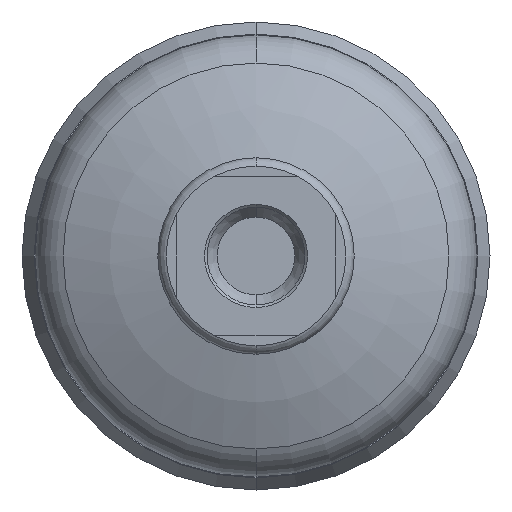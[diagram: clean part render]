
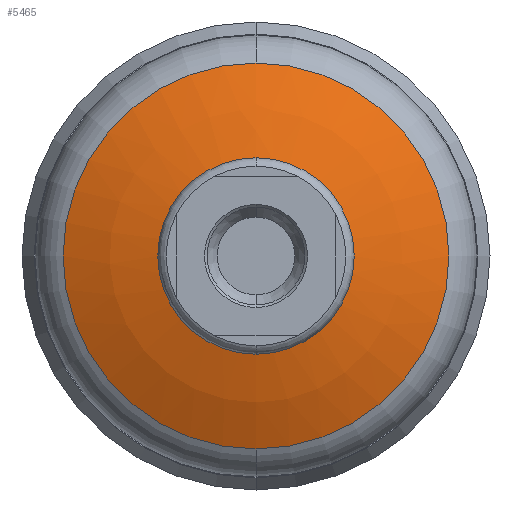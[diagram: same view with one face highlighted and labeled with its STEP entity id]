
A CAD part, front view. The second image highlights one B-rep face of the part: STEP entity #5465.
In plain terms, the highlighted spherical face has radius 258.99 mm.
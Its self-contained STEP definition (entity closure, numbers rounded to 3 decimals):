
#41 = CIRCLE ( 'NONE', #4950, 111.739 ) ;
#147 = CARTESIAN_POINT ( 'NONE',  ( 0., -58.674, 0. ) ) ;
#566 = CARTESIAN_POINT ( 'NONE',  ( 0., -39.651, -111.739 ) ) ;
#1175 = VERTEX_POINT ( 'NONE', #2691 ) ;
#1285 = ORIENTED_EDGE ( 'NONE', *, *, #3680, .T. ) ;
#1355 = DIRECTION ( 'NONE',  ( 0., 1., 0. ) ) ;
#1488 = ORIENTED_EDGE ( 'NONE', *, *, #2219, .F. ) ;
#1760 = ORIENTED_EDGE ( 'NONE', *, *, #2182, .F. ) ;
#1867 = CARTESIAN_POINT ( 'NONE',  ( 0., -58.674, 0. ) ) ;
#2022 = VERTEX_POINT ( 'NONE', #7356 ) ;
#2142 = EDGE_LOOP ( 'NONE', ( #1285, #4239 ) ) ;
#2178 = EDGE_LOOP ( 'NONE', ( #1760, #1488 ) ) ;
#2182 = EDGE_CURVE ( 'NONE', #4553, #3981, #41, .T. ) ;
#2211 = DIRECTION ( 'NONE',  ( 0., 0., 1. ) ) ;
#2219 = EDGE_CURVE ( 'NONE', #3981, #4553, #6563, .T. ) ;
#2515 = CARTESIAN_POINT ( 'NONE',  ( 0., 193.994, 0. ) ) ;
#2691 = CARTESIAN_POINT ( 'NONE',  ( 0., -58.674, -56.874 ) ) ;
#3148 = FACE_BOUND ( 'NONE', #2142, .T. ) ;
#3680 = EDGE_CURVE ( 'NONE', #2022, #1175, #7039, .T. ) ;
#3981 = VERTEX_POINT ( 'NONE', #566 ) ;
#3992 = DIRECTION ( 'NONE',  ( 0., 0., 1. ) ) ;
#4239 = ORIENTED_EDGE ( 'NONE', *, *, #6275, .T. ) ;
#4338 = AXIS2_PLACEMENT_3D ( 'NONE', #2515, #6597, #6659 ) ;
#4553 = VERTEX_POINT ( 'NONE', #4647 ) ;
#4647 = CARTESIAN_POINT ( 'NONE',  ( 0., -39.651, 111.739 ) ) ;
#4834 = AXIS2_PLACEMENT_3D ( 'NONE', #5719, #7475, #2211 ) ;
#4950 = AXIS2_PLACEMENT_3D ( 'NONE', #6872, #5319, #3992 ) ;
#5319 = DIRECTION ( 'NONE',  ( 0., 1., 0. ) ) ;
#5360 = DIRECTION ( 'NONE',  ( 0., 0., 1. ) ) ;
#5432 = AXIS2_PLACEMENT_3D ( 'NONE', #147, #6625, #5360 ) ;
#5465 = ADVANCED_FACE ( 'NONE', ( #6626, #3148 ), #6048, .T. ) ;
#5550 = CIRCLE ( 'NONE', #7530, 56.874 ) ;
#5719 = CARTESIAN_POINT ( 'NONE',  ( 0., -39.651, 0. ) ) ;
#6048 = SPHERICAL_SURFACE ( 'NONE', #4338, 258.99 ) ;
#6275 = EDGE_CURVE ( 'NONE', #1175, #2022, #5550, .T. ) ;
#6530 = DIRECTION ( 'NONE',  ( 0., 0., 1. ) ) ;
#6563 = CIRCLE ( 'NONE', #4834, 111.739 ) ;
#6597 = DIRECTION ( 'NONE',  ( 0., -1., 0. ) ) ;
#6625 = DIRECTION ( 'NONE',  ( 0., 1., 0. ) ) ;
#6626 = FACE_OUTER_BOUND ( 'NONE', #2178, .T. ) ;
#6659 = DIRECTION ( 'NONE',  ( -1., 0., 0. ) ) ;
#6872 = CARTESIAN_POINT ( 'NONE',  ( 0., -39.651, 0. ) ) ;
#7039 = CIRCLE ( 'NONE', #5432, 56.874 ) ;
#7356 = CARTESIAN_POINT ( 'NONE',  ( 0., -58.674, 56.874 ) ) ;
#7475 = DIRECTION ( 'NONE',  ( 0., 1., 0. ) ) ;
#7530 = AXIS2_PLACEMENT_3D ( 'NONE', #1867, #1355, #6530 ) ;
